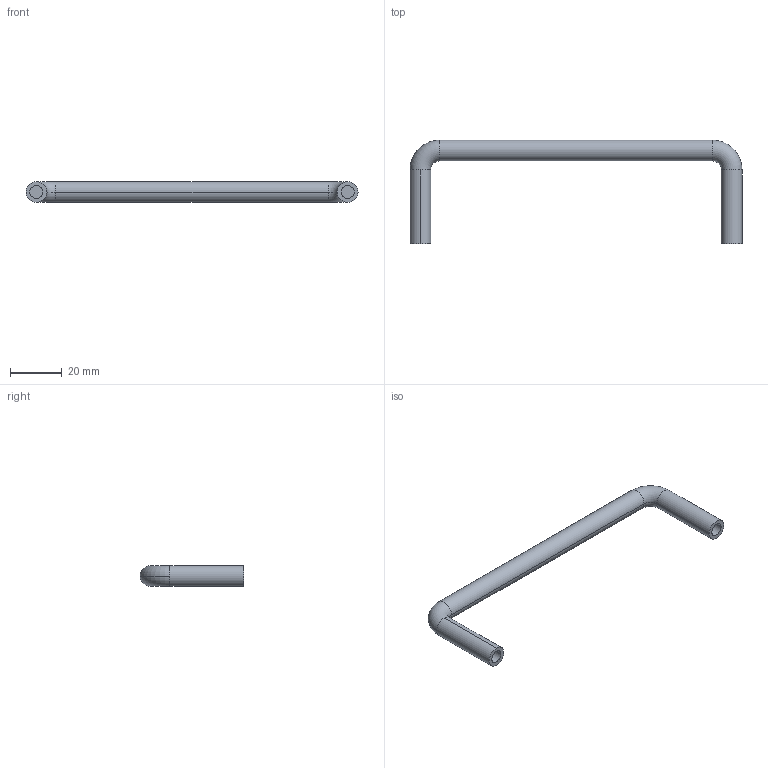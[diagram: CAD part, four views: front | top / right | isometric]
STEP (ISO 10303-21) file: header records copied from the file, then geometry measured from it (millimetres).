
FILE_DESCRIPTION (( 'STEP AP214' ), '1' );
FILE_NAME ('A84 KA-1251-10.STEP', '2012-02-22T01:59:50', ( '' ), ( '' ), 'SwSTEP 2.0', 'SolidWorks 2012', '' );
FILE_SCHEMA (( 'AUTOMOTIVE_DESIGN' ));
Length unit declared in the file: millimetre
Products named in the file (1): A84 KA-1251-10
Bounding box: 128 x 40 x 8 mm (x, y, z)
Volume: 8934.7 mm3; surface area: 5078.4 mm2
Topology: 1 solids, 1 shells, 18 faces, 36 edges, 22 vertices
Faces by surface type: cylinder 10, torus 4, plane 4
Entity records: 512 total; most frequent: DIRECTION 100, CARTESIAN_POINT 77, ORIENTED_EDGE 72, AXIS2_PLACEMENT_3D 45, EDGE_CURVE 36, CIRCLE 26, VERTEX_POINT 22, EDGE_LOOP 20
